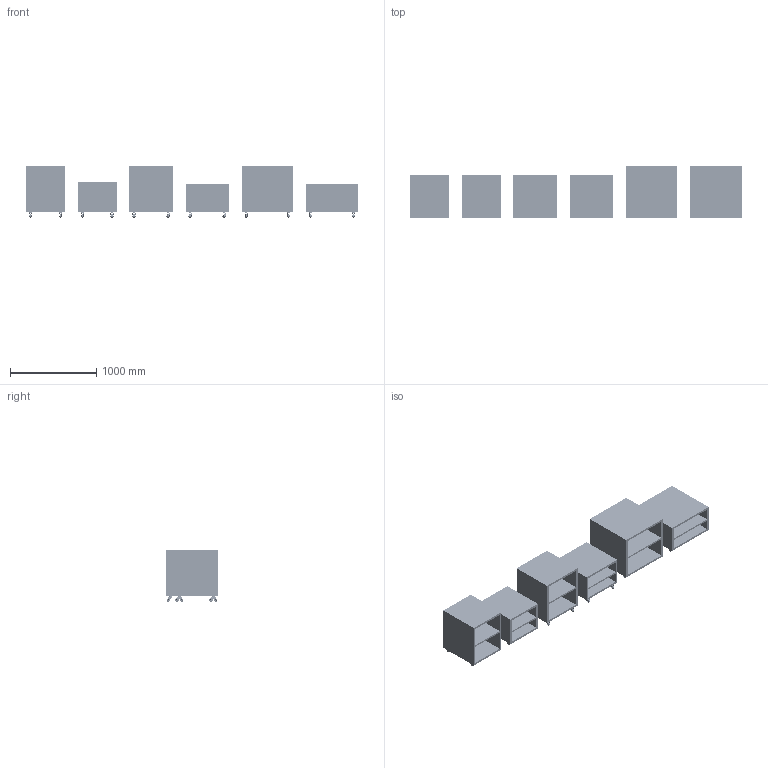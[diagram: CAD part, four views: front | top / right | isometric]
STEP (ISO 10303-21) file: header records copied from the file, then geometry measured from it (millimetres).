
FILE_DESCRIPTION(/* description */ ('Unknown'),/* implementation_level */ '2;1');
FILE_NAME(/* name */ 'VAC_STAR Unterbau fahrbar Modelle S_M_L',/* time_stamp */ '2021-10-21T15:28:54+02:00',/* author */ ('Rotor Lips AG'),/* organization */ ('Unknown'),/* preprocessor_version */ 'ST-DEVELOPER v16.7',/* originating_system */ 'Solid Edge',/* authorisation */ 'Unknown');
FILE_SCHEMA (('AUTOMOTIVE_DESIGN {1 0 10303 214 3 1 1}'));
Length unit declared in the file: millimetre
Products named in the file (43): VAC_STAR Unterbau fahrbar Modelle S_M_L; C3D-S215-mit-Unterbau-SUC-AA; R-VAC-STAR-U-S_UC; 310X PT 50 EL_0; 310X PT 50 EL_body_0; 310X PT 50 EL_shaft_0; 50 EL-6-X_0; 310X PT 50 EL_plate_0; C3D-S223-mit-Unterbau-M_AA; R-VAC-STAR-UnterbauM; 310X PT 50 EL_1; 310X PT 50 EL_body_1; 310X PT 50 EL_shaft_1; 50 EL-6-X_1; 310X PT 50 EL_plate_1; C3D-S223-mit-Unterbau-MUC_AA; R-VAC-STAR-UnterbauM_1; 310X PT 50 EL_5; 310X PT 50 EL_body_5; 310X PT 50 EL_shaft_5; 50 EL-6-X_5; 310X PT 50 EL_plate_5; C3D-S225-mit-Unterbau-L_AA; R-VAC-STAR-UnterbauS_0; 310X PT 50 EL_3; 310X PT 50 EL_body_3; 310X PT 50 EL_shaft_3; 50 EL-6-X_3; 310X PT 50 EL_plate_3; C3D-S225-mit-Unterbau-LUC_AA; R-VAC-STAR-U-S_UC_0; 310X PT 50 EL_4; 310X PT 50 EL_body_4; 310X PT 50 EL_shaft_4; 50 EL-6-X_4; 310X PT 50 EL_plate_4; C3D-Unterbau-S_AA; R-VAC-STAR-UnterbauS; 310X PT 50 EL; 310X PT 50 EL_body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
Assembly tree (60 placements, depth 4):
  VAC_STAR Unterbau fahrbar Modelle S_M_L
    C3D-S215-mit-Unterbau-SUC-AA
      R-VAC-STAR-U-S_UC
      310X PT 50 EL_0  x4
        310X PT 50 EL_body_0
        310X PT 50 EL_shaft_0
        50 EL-6-X_0
        310X PT 50 EL_plate_0
    C3D-S223-mit-Unterbau-M_AA
      R-VAC-STAR-UnterbauM
      310X PT 50 EL_1  x4
        310X PT 50 EL_body_1
        310X PT 50 EL_shaft_1
        50 EL-6-X_1
        310X PT 50 EL_plate_1
    C3D-S223-mit-Unterbau-MUC_AA
      R-VAC-STAR-UnterbauM_1
      310X PT 50 EL_5  x4
        310X PT 50 EL_body_5
        310X PT 50 EL_shaft_5
        50 EL-6-X_5
        310X PT 50 EL_plate_5
    C3D-S225-mit-Unterbau-L_AA
      R-VAC-STAR-UnterbauS_0
      310X PT 50 EL_3  x4
        310X PT 50 EL_body_3
        310X PT 50 EL_shaft_3
        50 EL-6-X_3
        310X PT 50 EL_plate_3
    C3D-S225-mit-Unterbau-LUC_AA
      R-VAC-STAR-U-S_UC_0
      310X PT 50 EL_4  x4
        310X PT 50 EL_body_4
        310X PT 50 EL_shaft_4
        50 EL-6-X_4
        310X PT 50 EL_plate_4
    C3D-Unterbau-S_AA
      R-VAC-STAR-UnterbauS
      310X PT 50 EL  x4
        310X PT 50 EL_body
        310X PT 50 EL_shaft
        50 EL-6-X
        310X PT 50 EL_plate
Bounding box: 3850 x 600 x 600 mm (x, y, z)
Volume: 201111909 mm3; surface area: 17345186.5 mm2
Topology: 102 solids, 102 shells, 7800 faces, 18744 edges, 12072 vertices
Faces by surface type: plane 4224, cylinder 1992, cone 768, torus 672, sphere 144
Full cylindrical faces by diameter (mm): 0.025 x24, 0.1 x24, 1.2 x24, 1.25 x24, 6 x120, 7 x48, 7.8 x48, 9 x48, 10.8 x48, 13 x24, 21 x48, 30 x24, 34.5 x48, 36 x72, 37.5 x48, 39.5 x48, 40 x72
Entity records: 60480 total; most frequent: CARTESIAN_POINT 10819, DIRECTION 9590, ORIENTED_EDGE 8712, EDGE_CURVE 4356, AXIS2_PLACEMENT_3D 3523, VERTEX_POINT 3036, EDGE_LOOP 2772, FACE_BOUND 2772
